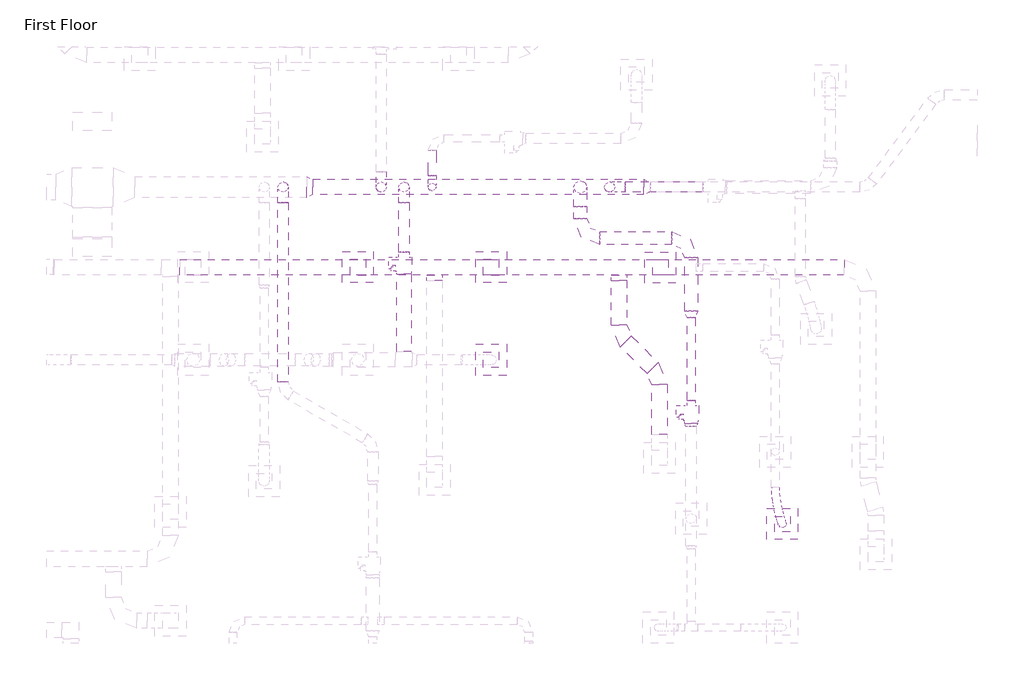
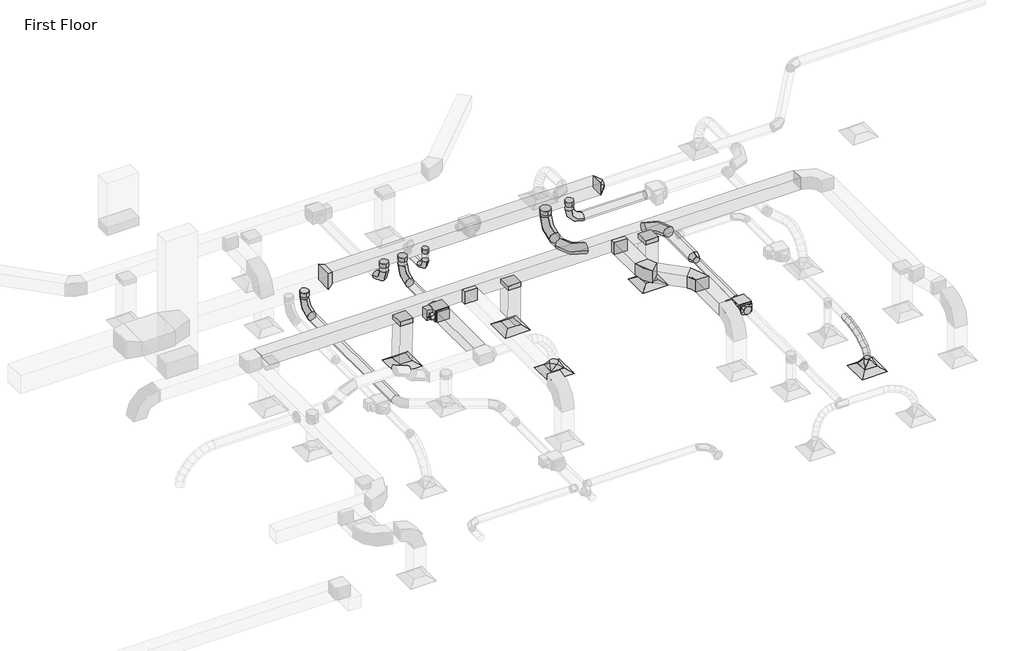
# One storey, part 23 of 61: 27 duct fittings, 24 duct segments, 5 air terminals, 2 proxies.
"""IFC4 building model written with IfcOpenShell, lengths in millimetres."""

from ifc_helpers import new_model, si_unit, point, frame, frame_2d, origin, place, context, project, spatial, polyline, circle_curve, ellipse_curve, trimmed, segment, composite_curve, outline, extrude, transform, mapped, element, save
from ifc_brep_helpers import plane_surface, cylinder_surface, advanced_brep
from components import m_exhaust_grill_er_600_x_600_face_300_x_300_connection_ff221211, m_vav_unit_single_duct_150_mm_ffdab17b, m_vav_unit_single_duct_200_mm_f9143229, m_rectangular_elbow_radius_1_5_w_5bed5c13, m_rectangular_takeoff_standard_c00386d1, m_rectangular_takeoff_standard_e7652614, m_rectangular_takeoff_standard_ef79a8fe, m_rectangular_transition_angle_45_degree_b3f65c7f, m_rectangular_to_round_transition_angle_45_degree_8f201c83, m_rectangular_to_round_transition_angle_45_degree_60daae35, m_rectangular_to_round_transition_angle_45_degree_1b7ae117, m_round_elbow_1_5_d_2e586196, m_round_elbow_1_5_d_4a9a621c, m_round_elbow_1_5_d_b7bc3624, m_round_elbow_1_5_d_9bbe8e48, m_round_elbow_1_5_d_dbf6cddc, m_round_elbow_1_5_d_f82de0da, m_round_takeoff_standard_d02f3bf7, m_round_takeoff_standard_8efdd074, m_round_takeoff_standard_ce92a222, m_round_takeoff_standard_45336e8a, m_round_transition_angle_45_degree_25573e05

model = new_model("IFC4")

# Units and contexts
model_context = context("Model", 3, world=origin())
ifc_project = project(units=[si_unit("LENGTHUNIT", "METRE", prefix="MILLI")], contexts=[model_context])

# Site, building, storey
site = spatial("IfcSite", under=ifc_project)
building = spatial("IfcBuilding", under=site)
storey = spatial("IfcBuildingStorey", under=building, Name="First Floor", Elevation=0.0)

# Air terminals
placement = place(None, origin())
m_exhaust_grill_er_600_x_600_face_300_x_300_connection_shape = m_exhaust_grill_er_600_x_600_face_300_x_300_connection_ff221211(model_context)
element("IfcAirTerminal", 1, ObjectType="M_Return Register : RR-600 x 600 Face 300 x 300 Connection", at=placement, inside=storey, context=model_context, shape_type="MappedRepresentation", body=[
    mapped(m_exhaust_grill_er_600_x_600_face_300_x_300_connection_shape, transform((-30462.8586725, 21539.5631342, 2680.0), x_axis=(1.0, 0.0, 0.0), y_axis=(0.0, 1.0, 0.0), z_axis=(0.0, 0.0, 1.0))),
])
element("IfcAirTerminal", 2, ObjectType="M_Return Register : RR-600 x 600 Face 300 x 300 Connection", at=placement, inside=storey, context=model_context, shape_type="MappedRepresentation", body=[
    mapped(m_exhaust_grill_er_600_x_600_face_300_x_300_connection_shape, transform((-24627.8309689, 21528.2490504, 2680.0), x_axis=(1.0, 0.0, 0.0), y_axis=(0.0, 1.0, 0.0), z_axis=(0.0, 0.0, 1.0))),
])
element("IfcAirTerminal", 3, ObjectType="M_Return Register : RR-600 x 600 Face 300 x 300 Connection", at=placement, inside=storey, context=model_context, shape_type="MappedRepresentation", body=[
    mapped(m_exhaust_grill_er_600_x_600_face_300_x_300_connection_shape, transform((-27891.8705544, 21539.5631342, 2680.0), x_axis=(1.0, 0.0, 0.0), y_axis=(0.0, 1.0, 0.0), z_axis=(0.0, 0.0, 1.0))),
])
element("IfcAirTerminal", 4, ObjectType="M_Supply Diffuser : SD-600 x 600 Face 300 x 300 Connection", at=placement, inside=storey, context=model_context, shape_type="MappedRepresentation", body=[
    mapped(m_exhaust_grill_er_600_x_600_face_300_x_300_connection_shape, transform((-22276.7081761, 16577.4420614, 2680.0), x_axis=(1.0, 0.0, 0.0), y_axis=(0.0, 1.0, 0.0), z_axis=(0.0, 0.0, 1.0))),
])
element("IfcAirTerminal", 5, ObjectType="M_Supply Diffuser : SD-600 x 600 Face 300 x 300 Connection", at=placement, inside=storey, context=model_context, shape_type="MappedRepresentation", body=[
    mapped(m_exhaust_grill_er_600_x_600_face_300_x_300_connection_shape, transform((-27891.8705544, 19747.3013059, 2680.0), x_axis=(1.0, 0.0, 0.0), y_axis=(0.0, 1.0, 0.0), z_axis=(0.0, 0.0, 1.0))),
])

# Proxies
m_vav_unit_single_duct_150_mm_shape = m_vav_unit_single_duct_150_mm_ffdab17b(model_context)
element("IfcBuildingElementProxy", 6, Name="M_VAV Unit - Single Duct : 150 mm", ObjectType="M_VAV Unit - Single Duct : 150 mm", at=placement, inside=storey, context=model_context, shape_type="MappedRepresentation", body=[
    mapped(m_vav_unit_single_duct_150_mm_shape, transform((-24034.890372, 18860.9596581, 3500.0), x_axis=(0.0, -1.0000000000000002, 0.0), y_axis=(1.0000000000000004, 0.0, 0.0), z_axis=(0.0, 0.0, 1.0000000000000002))),
])
m_vav_unit_single_duct_200_mm_shape = m_vav_unit_single_duct_200_mm_f9143229(model_context)
element("IfcBuildingElementProxy", 7, Name="M_VAV Unit - Single Duct : 200 mm", ObjectType="M_VAV Unit - Single Duct : 200 mm", at=placement, inside=storey, context=model_context, shape_type="MappedRepresentation", body=[
    mapped(m_vav_unit_single_duct_200_mm_shape, transform((-29574.4400538, 21727.6725928, 3500.05), x_axis=(0.0, -1.0, 0.0), y_axis=(1.0, 0.0, 0.0), z_axis=(0.0, 0.0, 1.0))),
])

# Duct fittings
m_rectangular_elbow_radius_1_5_w_shape = m_rectangular_elbow_radius_1_5_w_5bed5c13(model_context)
element("IfcDuctFitting", 8, ObjectType="M_Rectangular Elbow - Radius : 1.5 W", at=placement, inside=storey, context=model_context, shape_type="MappedRepresentation", body=[
    mapped(m_rectangular_elbow_radius_1_5_w_shape, transform((-24645.9664299, 19456.3682624, 4000.0), x_axis=(0.0, 1.0, 0.0), y_axis=(-1.0, 0.0, 0.0), z_axis=(0.0, 0.0, 1.0))),
])
element("IfcDuctFitting", 9, ObjectType="M_Rectangular Elbow - Radius : 1.5 W", at=placement, inside=storey, context=model_context, shape_type="MappedRepresentation", body=[
    mapped(m_rectangular_elbow_radius_1_5_w_shape, transform((-25423.7838892, 20234.1857217, 4000.0), x_axis=(0.0, -1.0, 0.0), y_axis=(1.0, 0.0, 0.0), z_axis=(0.0, 0.0, 1.0))),
])
m_rectangular_takeoff_standard_shape = m_rectangular_takeoff_standard_c00386d1(model_context)
element("IfcDuctFitting", 10, ObjectType="M_Rectangular Takeoff : Standard", at=placement, inside=storey, context=model_context, shape_type="MappedRepresentation", body=[
    mapped(m_rectangular_takeoff_standard_shape, transform((-28982.8236084, 21377.5562922, 4000.0), x_axis=(0.0, -1.0, 0.0), y_axis=(-1.0, 0.0, 0.0), z_axis=(0.0, 0.0, -1.0))),
])
element("IfcDuctFitting", 11, ObjectType="M_Rectangular Takeoff : Standard", at=placement, inside=storey, context=model_context, shape_type="MappedRepresentation", body=[
    mapped(m_rectangular_takeoff_standard_shape, transform((-25423.7838892, 21377.5562922, 4000.0), x_axis=(0.0, -1.0, 0.0), y_axis=(-1.0, 0.0, 0.0), z_axis=(0.0, 0.0, -1.0))),
])
m_rectangular_takeoff_standard_2_shape = m_rectangular_takeoff_standard_e7652614(model_context)
element("IfcDuctFitting", 12, ObjectType="M_Rectangular Takeoff : Standard", at=placement, inside=storey, context=model_context, shape_type="MappedRepresentation", body=[
    mapped(m_rectangular_takeoff_standard_2_shape, transform((-24627.8309689, 21527.4847558, 3850.0), x_axis=(0.0, 0.0007153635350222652, -0.9999997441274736), y_axis=(0.0, 0.9999997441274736, 0.0007153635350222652), z_axis=(1.0, 0.0, 0.0))),
])
m_rectangular_takeoff_standard_3_shape = m_rectangular_takeoff_standard_ef79a8fe(model_context)
element("IfcDuctFitting", 13, ObjectType="M_Rectangular Takeoff : Standard", at=placement, inside=storey, context=model_context, shape_type="MappedRepresentation", body=[
    mapped(m_rectangular_takeoff_standard_3_shape, transform((-27891.8705544, 21526.3164283, 3850.0), x_axis=(0.0, 0.012397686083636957, -0.9999231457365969), y_axis=(0.0, 0.9999231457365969, 0.012397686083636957), z_axis=(1.0, 0.0, 0.0))),
])
element("IfcDuctFitting", 14, ObjectType="M_Rectangular Takeoff : Standard", at=placement, inside=storey, context=model_context, shape_type="MappedRepresentation", body=[
    mapped(m_rectangular_takeoff_standard_3_shape, transform((-30462.8586725, 21526.3164283, 3850.0), x_axis=(0.0, 0.01239768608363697, -0.9999231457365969), y_axis=(0.0, 0.9999231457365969, 0.01239768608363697), z_axis=(1.0, 0.0, 0.0))),
])
m_rectangular_transition_angle_45_degree_shape = m_rectangular_transition_angle_45_degree_b3f65c7f(model_context)
element("IfcDuctFitting", 15, ObjectType="M_Rectangular Transition - Angle : 45 Degree", at=placement, inside=storey, context=model_context, shape_type="MappedRepresentation", body=[
    mapped(m_rectangular_transition_angle_45_degree_shape, transform((-31328.0902372, 23080.5096581, 4279.0), x_axis=(-1.0, 0.0, 0.0), y_axis=(0.0, -1.0, 0.0), z_axis=(0.0, 0.0, 1.0))),
])
m_rectangular_to_round_transition_angle_45_degree_shape = m_rectangular_to_round_transition_angle_45_degree_8f201c83(model_context)
element("IfcDuctFitting", 16, ObjectType="M_Rectangular to Round Transition - Angle : 45 Degree", at=placement, inside=storey, context=model_context, shape_type="MappedRepresentation", body=[
    mapped(m_rectangular_to_round_transition_angle_45_degree_shape, transform((-22276.7081761, 16577.4420614, 2781.6), x_axis=(0.0, 0.0, 1.0), y_axis=(1.0, 0.0, 0.0), z_axis=(0.0, 1.0, 0.0))),
])
m_rectangular_to_round_transition_angle_45_degree_2_shape = m_rectangular_to_round_transition_angle_45_degree_60daae35(model_context)
element("IfcDuctFitting", 17, ObjectType="M_Rectangular to Round Transition - Angle : 45 Degree", at=placement, inside=storey, context=model_context, shape_type="MappedRepresentation", body=[
    mapped(m_rectangular_to_round_transition_angle_45_degree_2_shape, transform((-27891.8705544, 19747.3013059, 2781.6), x_axis=(0.0, 0.0, 1.0), y_axis=(1.0, 0.0, 0.0), z_axis=(0.0, 1.0, 0.0))),
])
element("IfcDuctFitting", 18, ObjectType="M_Rectangular to Round Transition - Angle : 45 Degree", at=placement, inside=storey, context=model_context, shape_type="MappedRepresentation", body=[
    mapped(m_rectangular_to_round_transition_angle_45_degree_2_shape, transform((-24948.8009153, 23080.5096581, 4279.0), x_axis=(1.0, 0.0, 0.0), y_axis=(0.0, 1.0, 0.0), z_axis=(0.0, 0.0, 1.0))),
])
m_rectangular_to_round_transition_angle_45_degree_3_shape = m_rectangular_to_round_transition_angle_45_degree_1b7ae117(model_context)
element("IfcDuctFitting", 19, ObjectType="M_Rectangular to Round Transition - Angle : 45 Degree", at=placement, inside=storey, context=model_context, shape_type="MappedRepresentation", body=[
    mapped(m_rectangular_to_round_transition_angle_45_degree_3_shape, transform((-24034.890372, 18518.1596581, 3619.05), x_axis=(0.0, -1.0, 0.0), y_axis=(1.0, 0.0, 0.0), z_axis=(0.0, 0.0, 1.0))),
])
m_round_elbow_1_5_d_shape = m_round_elbow_1_5_d_2e586196(model_context)
element("IfcDuctFitting", 20, ObjectType="M_Round Elbow : 1.5 D", at=placement, inside=storey, context=model_context, shape_type="MappedRepresentation", body=[
    mapped(m_round_elbow_1_5_d_shape, transform((-29028.6643484, 23080.5096581, 3609.5), x_axis=(0.0, 0.0, -1.0), y_axis=(0.0, 1.0, 0.0), z_axis=(1.0, 0.0, 0.0))),
])
m_round_elbow_1_5_d_2_shape = m_round_elbow_1_5_d_4a9a621c(model_context)
element("IfcDuctFitting", 21, ObjectType="M_Round Elbow : 1.5 D", at=placement, inside=storey, context=model_context, shape_type="MappedRepresentation", body=[
    mapped(m_round_elbow_1_5_d_2_shape, transform((-24034.040372, 22094.4455778, 3609.5), x_axis=(0.0, 0.9999999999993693, 1.1231562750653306e-06), y_axis=(-1.0, 0.0, 0.0), z_axis=(0.0, -1.1231562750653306e-06, 0.9999999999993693))),
])
element("IfcDuctFitting", 22, ObjectType="M_Round Elbow : 1.5 D", at=placement, inside=storey, context=model_context, shape_type="MappedRepresentation", body=[
    mapped(m_round_elbow_1_5_d_2_shape, transform((-26174.040372, 23080.5096581, 3609.5), x_axis=(0.0, 0.0, -1.0), y_axis=(0.0, -1.0, 0.0), z_axis=(-1.0, 0.0, 0.0))),
])
element("IfcDuctFitting", 23, ObjectType="M_Round Elbow : 1.5 D", at=placement, inside=storey, context=model_context, shape_type="MappedRepresentation", body=[
    mapped(m_round_elbow_1_5_d_2_shape, transform((-26174.040372, 22094.4455778, 3609.5), x_axis=(0.0, -1.0, 0.0), y_axis=(1.0, 0.0, 0.0), z_axis=(0.0, 0.0, 1.0))),
])
m_round_elbow_1_5_d_3_shape = m_round_elbow_1_5_d_b7bc3624(model_context)
element("IfcDuctFitting", 24, ObjectType="M_Round Elbow : 1.5 D", at=placement, inside=storey, context=model_context, shape_type="MappedRepresentation", body=[
    mapped(m_round_elbow_1_5_d_3_shape, transform((-31904.8110878, 23080.5096581, 3609.5), x_axis=(0.0, 0.0, -1.0), y_axis=(0.0, -1.0, 0.0), z_axis=(-1.0, 0.0, 0.0))),
])
m_round_elbow_1_5_d_4_shape = m_round_elbow_1_5_d_9bbe8e48(model_context)
element("IfcDuctFitting", 25, ObjectType="M_Round Elbow : 1.5 D", at=placement, inside=storey, context=model_context, shape_type="MappedRepresentation", body=[
    mapped(m_round_elbow_1_5_d_4_shape, transform((-25607.0538316, 23080.5096581, 3634.5), x_axis=(-0.9999999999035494, 0.0, -1.3888888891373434e-05), y_axis=(-1.3888888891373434e-05, 0.0, 0.9999999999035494), z_axis=(0.0, 1.0, 0.0))),
])
m_round_elbow_1_5_d_5_shape = m_round_elbow_1_5_d_dbf6cddc(model_context)
element("IfcDuctFitting", 26, ObjectType="M_Round Elbow : 1.5 D", at=placement, inside=storey, context=model_context, shape_type="MappedRepresentation", body=[
    mapped(m_round_elbow_1_5_d_5_shape, transform((-29573.7900538, 23080.5096581, 3634.6045644), x_axis=(0.0, 0.0, -1.0), y_axis=(0.0, -1.0, 0.0), z_axis=(-1.0, 0.0, 0.0))),
])
m_round_elbow_1_5_d_6_shape = m_round_elbow_1_5_d_f82de0da(model_context)
element("IfcDuctFitting", 27, ObjectType="M_Round Elbow : 1.5 D", at=placement, inside=storey, context=model_context, shape_type="MappedRepresentation", body=[
    mapped(m_round_elbow_1_5_d_6_shape, transform((-30011.2191748, 23080.5096581, 3634.6242808), x_axis=(0.0, 0.0, -1.0), y_axis=(0.0, 1.0, 0.0), z_axis=(1.0, 0.0, 0.0))),
])
m_round_takeoff_standard_shape = m_round_takeoff_standard_d02f3bf7(model_context)
element("IfcDuctFitting", 28, ObjectType="M_Round Takeoff : Standard", at=placement, inside=storey, context=model_context, shape_type="MappedRepresentation", body=[
    mapped(m_round_takeoff_standard_shape, transform((-29028.6643484, 23080.5096581, 4129.0), x_axis=(0.0, 0.0, -1.0), y_axis=(-1.0, 0.0, 0.0), z_axis=(0.0, 1.0, 0.0))),
])
m_round_takeoff_standard_2_shape = m_round_takeoff_standard_8efdd074(model_context)
element("IfcDuctFitting", 29, ObjectType="M_Round Takeoff : Standard", at=placement, inside=storey, context=model_context, shape_type="MappedRepresentation", body=[
    mapped(m_round_takeoff_standard_2_shape, transform((-25607.0538316, 23080.5096581, 4129.0), x_axis=(0.0, 0.0, -1.0), y_axis=(0.0, -1.0, 0.0), z_axis=(-1.0, 0.0, 0.0))),
])
element("IfcDuctFitting", 30, ObjectType="M_Round Takeoff : Standard", at=placement, inside=storey, context=model_context, shape_type="MappedRepresentation", body=[
    mapped(m_round_takeoff_standard_2_shape, transform((-30011.2191748, 23080.5096581, 4129.0), x_axis=(0.0, 0.0, -1.0), y_axis=(-1.0, 0.0, 0.0), z_axis=(0.0, 1.0, 0.0))),
])
m_round_takeoff_standard_3_shape = m_round_takeoff_standard_ce92a222(model_context)
element("IfcDuctFitting", 31, ObjectType="M_Round Takeoff : Standard", at=placement, inside=storey, context=model_context, shape_type="MappedRepresentation", body=[
    mapped(m_round_takeoff_standard_3_shape, transform((-26174.040372, 23080.5096581, 4129.0), x_axis=(0.0, 0.0, -1.0), y_axis=(1.0, 0.0, 0.0), z_axis=(0.0, -1.0, 0.0))),
])
m_round_takeoff_standard_4_shape = m_round_takeoff_standard_45336e8a(model_context)
element("IfcDuctFitting", 32, ObjectType="M_Round Takeoff : Standard", at=placement, inside=storey, context=model_context, shape_type="MappedRepresentation", body=[
    mapped(m_round_takeoff_standard_4_shape, transform((-29573.7900538, 23080.5096581, 4129.0), x_axis=(0.0, 0.0, -1.0), y_axis=(1.0, 0.0, 0.0), z_axis=(0.0, -1.0, 0.0))),
])
element("IfcDuctFitting", 33, ObjectType="M_Round Takeoff : Standard", at=placement, inside=storey, context=model_context, shape_type="MappedRepresentation", body=[
    mapped(m_round_takeoff_standard_4_shape, transform((-31904.8110878, 23080.5096581, 4059.5), x_axis=(0.0, 0.0, -1.0), y_axis=(1.0, 0.0, 0.0), z_axis=(0.0, -1.0, 0.0))),
])
m_round_transition_angle_45_degree_shape = m_round_transition_angle_45_degree_25573e05(model_context)
element("IfcDuctFitting", 34, ObjectType="M_Round Transition - Angle : 45 Degree", at=placement, inside=storey, context=model_context, shape_type="MappedRepresentation", body=[
    mapped(m_round_transition_angle_45_degree_shape, transform((-24034.040372, 20562.5596581, 3609.5), x_axis=(0.0, 0.9999999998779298, -1.562500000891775e-05), y_axis=(-1.0000000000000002, 0.0, 0.0), z_axis=(0.0, 1.562500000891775e-05, 0.9999999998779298))),
])

# Duct segments
element("IfcDuctSegment", 35, ObjectType="Flex - Round", at=placement, inside=storey, context=model_context, shape_type="AdvancedBrep", body=[
    advanced_brep(
    [(-22337.5322049, 17286.8110835, 3619.1), (-22412.8720401, 17292.2357993, 3544.6387235), (-22487.3651664, 17279.734102, 3619.1), (-22412.0253312, 17274.3093863, 3693.5612765), (-22331.8283221, 17166.0491953, 3604.5309709), (-22407.4025928, 17176.4373507, 3530.6684967), (-22481.4038492, 17153.5218453, 3603.8734242), (-22405.8295785, 17143.13369, 3677.7358984), (-22202.9970285, 16591.1920171, 2964.2801549), (-22263.330789, 16504.4510511, 2973.5452603), (-22350.4193237, 16563.6921057, 2961.0518794), (-22290.0855633, 16650.4330717, 2951.7867741), (-22316.9829183, 17046.6391712, 3563.9425994), (-22393.6850121, 17066.0990489, 3493.1636723), (-22465.4955438, 17025.5622994, 3560.3790055), (-22388.79345, 17006.1024217, 3631.1579326), (-22295.7029159, 16930.4033389, 3500.1144399), (-22373.8850698, 16957.9476155, 3433.7748693), (-22443.2961642, 16904.3046366, 3493.7932265), (-22365.1140103, 16876.76036, 3560.1327971), (-22271.0773816, 16823.0192861, 3416.7208696), (-22351.0268293, 16858.2701635, 3356.3661817), (-22418.0794801, 16794.342769, 3408.3977465), (-22338.1300325, 16759.0918916, 3468.7524344), (-22246.2657647, 16729.9665001, 3317.554423), (-22328.2816146, 16772.9671538, 3265.4586794), (-22393.0488787, 16700.4687096, 3308.356068), (-22311.0330288, 16657.468056, 3360.4518117), (-22224.455965, 16656.6125646, 3206.3614053), (-22308.7943061, 16707.4245637, 3166.1064316), (-22371.3792965, 16627.5863746, 3197.8779225), (-22287.0409553, 16576.7743755, 3238.1328962), (-22208.8838372, 16608.3705154, 3086.7726905), (-22295.4665161, 16666.1354149, 3063.7534775), (-22356.1977151, 16580.5542281, 3081.2884729), (-22269.6150362, 16522.7893287, 3104.3076859)],
    [
        (0, 1, circle_curve(frame((-22412.4486857, 17283.2725928, 3619.1), z_axis=(-0.04684098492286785, 0.9917114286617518, 0.11964265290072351), x_axis=(0.9988864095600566, 0.04717987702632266, 0.0)), 75.0)),
        (1, 2, circle_curve(frame((-22412.4486857, 17283.2725928, 3619.1), z_axis=(-0.04684098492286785, 0.9917114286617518, 0.11964265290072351), x_axis=(0.9988864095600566, 0.04717987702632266, 0.0)), 75.0)),
        (2, 3, circle_curve(frame((-22412.4486857, 17283.2725928, 3619.1), z_axis=(-0.04684098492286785, 0.9917114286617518, 0.11964265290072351), x_axis=(0.9988864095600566, 0.04717987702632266, 0.0)), 75.0)),
        (3, 0, circle_curve(frame((-22412.4486857, 17283.2725928, 3619.1), z_axis=(-0.04684098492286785, 0.9917114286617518, 0.11964265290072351), x_axis=(0.9988864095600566, 0.04717987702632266, 0.0)), 75.0)),
        (0, 4),
        (4, 5, ellipse_curve(frame((-22406.6160856, 17159.7855203, 3604.2021976), z_axis=(-0.08236230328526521, 0.9718018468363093, 0.22094710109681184), x_axis=(0.32132282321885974, 0.23575522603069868, -0.9171538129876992)), 75.4497084, 75.0)),
        (5, 1),
        (5, 6, ellipse_curve(frame((-22406.6160856, 17159.7855203, 3604.2021976), z_axis=(-0.08236230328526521, 0.9718018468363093, 0.22094710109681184), x_axis=(0.32132282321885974, 0.23575522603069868, -0.9171538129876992)), 75.4497084, 75.0)),
        (6, 2),
        (6, 7, ellipse_curve(frame((-22406.6160856, 17159.7855203, 3604.2021976), z_axis=(-0.08236230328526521, 0.9718018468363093, 0.22094710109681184), x_axis=(0.32132282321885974, 0.23575522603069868, -0.9171538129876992)), 75.4497084, 75.0)),
        (7, 3),
        (7, 4, ellipse_curve(frame((-22406.6160856, 17159.7855203, 3604.2021976), z_axis=(-0.08236230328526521, 0.9718018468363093, 0.22094710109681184), x_axis=(0.32132282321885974, 0.23575522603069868, -0.9171538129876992)), 75.4497084, 75.0)),
        (8, 9, circle_curve(frame((-22276.7081761, 16577.4420614, 2962.6660172), z_axis=(0.04753896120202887, -0.13872507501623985, -0.9891892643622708), x_axis=(0.9828153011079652, 0.18333274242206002, 0.0215218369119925)), 75.0)),
        (9, 10, circle_curve(frame((-22276.7081761, 16577.4420614, 2962.6660172), z_axis=(0.04753896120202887, -0.13872507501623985, -0.9891892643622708), x_axis=(0.9828153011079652, 0.18333274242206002, 0.0215218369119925)), 75.0)),
        (10, 11, circle_curve(frame((-22276.7081761, 16577.4420614, 2962.6660172), z_axis=(0.04753896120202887, -0.13872507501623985, -0.9891892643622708), x_axis=(0.9828153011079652, 0.18333274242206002, 0.0215218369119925)), 75.0)),
        (11, 8, circle_curve(frame((-22276.7081761, 16577.4420614, 2962.6660172), z_axis=(0.04753896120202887, -0.13872507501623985, -0.9891892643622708), x_axis=(0.9828153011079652, 0.18333274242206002, 0.0215218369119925)), 75.0)),
        (4, 12),
        (12, 13, ellipse_curve(frame((-22391.239231, 17036.1007353, 3562.1608025), z_axis=(-0.13822015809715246, 0.9064687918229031, 0.39901067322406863), x_axis=(0.23389540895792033, 0.4213578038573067, -0.8762137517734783)), 75.2975301, 75.0)),
        (13, 5),
        (13, 14, ellipse_curve(frame((-22391.239231, 17036.1007353, 3562.1608025), z_axis=(-0.13822015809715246, 0.9064687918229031, 0.39901067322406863), x_axis=(0.23389540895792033, 0.4213578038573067, -0.8762137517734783)), 75.2975301, 75.0)),
        (14, 6),
        (14, 15, ellipse_curve(frame((-22391.239231, 17036.1007353, 3562.1608025), z_axis=(-0.13822015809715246, 0.9064687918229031, 0.39901067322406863), x_axis=(0.23389540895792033, 0.4213578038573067, -0.8762137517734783)), 75.2975301, 75.0)),
        (15, 7),
        (15, 12, ellipse_curve(frame((-22391.239231, 17036.1007353, 3562.1608025), z_axis=(-0.13822015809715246, 0.9064687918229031, 0.39901067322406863), x_axis=(0.23389540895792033, 0.4213578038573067, -0.8762137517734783)), 75.2975301, 75.0)),
        (12, 16),
        (16, 17, ellipse_curve(frame((-22369.4995401, 16917.3539877, 3496.9538332), z_axis=(-0.1688542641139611, 0.8238560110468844, 0.5410633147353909), x_axis=(0.12595685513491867, 0.5624811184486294, -0.817159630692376)), 75.2321321, 75.0)),
        (17, 13),
        (17, 18, ellipse_curve(frame((-22369.4995401, 16917.3539877, 3496.9538332), z_axis=(-0.1688542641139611, 0.8238560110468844, 0.5410633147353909), x_axis=(0.12595685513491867, 0.5624811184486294, -0.817159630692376)), 75.2321321, 75.0)),
        (18, 14),
        (18, 19, ellipse_curve(frame((-22369.4995401, 16917.3539877, 3496.9538332), z_axis=(-0.1688542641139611, 0.8238560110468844, 0.5410633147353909), x_axis=(0.12595685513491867, 0.5624811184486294, -0.817159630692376)), 75.2321321, 75.0)),
        (19, 15),
        (19, 16, ellipse_curve(frame((-22369.4995401, 16917.3539877, 3496.9538332), z_axis=(-0.1688542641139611, 0.8238560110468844, 0.5410633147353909), x_axis=(0.12595685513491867, 0.5624811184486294, -0.817159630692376)), 75.2321321, 75.0)),
        (16, 20),
        (20, 21, ellipse_curve(frame((-22344.5784309, 16808.6810276, 3412.5593081), z_axis=(-0.1793896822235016, 0.7273249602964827, 0.6624331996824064), x_axis=(0.008240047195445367, 0.6744435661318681, -0.7382804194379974)), 75.2239336, 75.0)),
        (21, 17),
        (21, 22, ellipse_curve(frame((-22344.5784309, 16808.6810276, 3412.5593081), z_axis=(-0.1793896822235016, 0.7273249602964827, 0.6624331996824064), x_axis=(0.008240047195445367, 0.6744435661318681, -0.7382804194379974)), 75.2239336, 75.0)),
        (22, 18),
        (22, 23, ellipse_curve(frame((-22344.5784309, 16808.6810276, 3412.5593081), z_axis=(-0.1793896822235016, 0.7273249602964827, 0.6624331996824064), x_axis=(0.008240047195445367, 0.6744435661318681, -0.7382804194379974)), 75.2239336, 75.0)),
        (23, 19),
        (23, 20, ellipse_curve(frame((-22344.5784309, 16808.6810276, 3412.5593081), z_axis=(-0.1793896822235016, 0.7273249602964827, 0.6624331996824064), x_axis=(0.008240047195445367, 0.6744435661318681, -0.7382804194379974)), 75.2239336, 75.0)),
        (20, 24),
        (24, 25, ellipse_curve(frame((-22319.6573217, 16715.2176049, 3312.9552455), z_axis=(-0.17114286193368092, 0.6104708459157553, 0.773327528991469), x_axis=(-0.10619265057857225, 0.7689058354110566, -0.6304815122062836)), 75.2682908, 75.0)),
        (25, 21),
        (25, 26, ellipse_curve(frame((-22319.6573217, 16715.2176049, 3312.9552455), z_axis=(-0.17114286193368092, 0.6104708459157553, 0.773327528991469), x_axis=(-0.10619265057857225, 0.7689058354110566, -0.6304815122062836)), 75.2682908, 75.0)),
        (26, 22),
        (26, 27, ellipse_curve(frame((-22319.6573217, 16715.2176049, 3312.9552455), z_axis=(-0.17114286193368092, 0.6104708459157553, 0.773327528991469), x_axis=(-0.10619265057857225, 0.7689058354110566, -0.6304815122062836)), 75.2682908, 75.0)),
        (27, 23),
        (27, 24, ellipse_curve(frame((-22319.6573217, 16715.2176049, 3312.9552455), z_axis=(-0.17114286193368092, 0.6104708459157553, 0.773327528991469), x_axis=(-0.10619265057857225, 0.7689058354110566, -0.6304815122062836)), 75.2682908, 75.0)),
        (24, 28),
        (28, 29, ellipse_curve(frame((-22297.9176307, 16642.0994696, 3202.1196639), z_axis=(-0.14145311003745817, 0.4597668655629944, 0.876701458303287), x_axis=(-0.20656639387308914, 0.8524032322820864, -0.4803530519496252)), 75.3847566, 75.0)),
        (29, 25),
        (29, 30, ellipse_curve(frame((-22297.9176307, 16642.0994696, 3202.1196639), z_axis=(-0.14145311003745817, 0.4597668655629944, 0.876701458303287), x_axis=(-0.20656639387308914, 0.8524032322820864, -0.4803530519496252)), 75.3847566, 75.0)),
        (30, 26),
        (30, 31, ellipse_curve(frame((-22297.9176307, 16642.0994696, 3202.1196639), z_axis=(-0.14145311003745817, 0.4597668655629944, 0.876701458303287), x_axis=(-0.20656639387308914, 0.8524032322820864, -0.4803530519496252)), 75.3847566, 75.0)),
        (31, 27),
        (31, 28, ellipse_curve(frame((-22297.9176307, 16642.0994696, 3202.1196639), z_axis=(-0.14145311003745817, 0.4597668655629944, 0.876701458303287), x_axis=(-0.20656639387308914, 0.8524032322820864, -0.4803530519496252)), 75.3847566, 75.0)),
        (28, 32),
        (32, 33, ellipse_curve(frame((-22282.5407761, 16594.4623718, 3084.0305817), z_axis=(-0.08439186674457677, 0.2571344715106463, 0.9626836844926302), x_axis=(-0.2858330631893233, 0.9192801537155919, -0.2705983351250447)), 75.6079433, 75.0)),
        (33, 29),
        (33, 34, ellipse_curve(frame((-22282.5407761, 16594.4623718, 3084.0305817), z_axis=(-0.08439186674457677, 0.2571344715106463, 0.9626836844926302), x_axis=(-0.2858330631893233, 0.9192801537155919, -0.2705983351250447)), 75.6079433, 75.0)),
        (34, 30),
        (34, 35, ellipse_curve(frame((-22282.5407761, 16594.4623718, 3084.0305817), z_axis=(-0.08439186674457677, 0.2571344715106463, 0.9626836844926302), x_axis=(-0.2858330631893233, 0.9192801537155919, -0.2705983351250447)), 75.6079433, 75.0)),
        (35, 31),
        (35, 32, ellipse_curve(frame((-22282.5407761, 16594.4623718, 3084.0305817), z_axis=(-0.08439186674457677, 0.2571344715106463, 0.9626836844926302), x_axis=(-0.2858330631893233, 0.9192801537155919, -0.2705983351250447)), 75.6079433, 75.0)),
        (32, 8),
        (11, 33),
        (10, 34),
        (9, 35),
    ],
    [
        plane_surface(frame((-22412.4486857, 17292.2556519, 3544.6399124), z_axis=(-0.04684098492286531, 0.9917114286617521, 0.11964265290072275), x_axis=(0.9989023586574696, 0.04650378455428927, 0.0056103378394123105))),
        cylinder_surface(frame((-22412.4486857, 17283.2725928, 3619.1), z_axis=(-0.04684098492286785, 0.9917114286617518, 0.11964265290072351), x_axis=(0.9988864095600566, 0.04717987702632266, 0.0)), 75.0),
        plane_surface(frame((-22276.7081761, 16651.7152306, 2952.2498599), z_axis=(0.04753896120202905, -0.1387250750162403, -0.989189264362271), x_axis=(0.9988693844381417, 0.006602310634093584, 0.04707825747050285))),
        cylinder_surface(frame((-22406.6160856, 17159.7855203, 3604.2021976), z_axis=(-0.11690180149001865, 0.9403076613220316, 0.3196176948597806), x_axis=(0.9928869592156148, 0.11796804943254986, 0.016094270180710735)), 75.0),
        cylinder_surface(frame((-22391.239231, 17036.1007353, 3562.1608025), z_axis=(-0.15844619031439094, 0.8654662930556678, 0.47525035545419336), x_axis=(0.9862853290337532, 0.16126254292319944, 0.0351516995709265)), 75.0),
        cylinder_surface(frame((-22369.4995401, 16917.3539877, 3496.9538332), z_axis=(-0.1782203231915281, 0.7771616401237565, 0.6035373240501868), x_axis=(0.9813338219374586, 0.18542141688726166, 0.05101791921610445)), 75.0),
        cylinder_surface(frame((-22344.5784309, 16808.6810276, 3412.5593081), z_axis=(-0.17949099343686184, 0.6731579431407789, 0.7173850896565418), x_axis=(0.9786847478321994, 0.1961619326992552, 0.060800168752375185)), 75.0),
        cylinder_surface(frame((-22319.6573217, 16715.2176049, 3312.9552455), z_axis=(-0.16157466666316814, 0.5434317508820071, 0.8237569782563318), x_axis=(0.9784364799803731, 0.19704751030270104, 0.061921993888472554)), 75.0),
        cylinder_surface(frame((-22297.9176307, 16642.0994696, 3202.1196639), z_axis=(-0.11988762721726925, 0.37140876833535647, 0.9206967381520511), x_axis=(0.9802697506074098, 0.19108880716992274, 0.05055970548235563)), 75.0),
        cylinder_surface(frame((-22282.5407761, 16594.4623718, 3084.0305817), z_axis=(-0.047538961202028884, 0.13872507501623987, 0.9891892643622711), x_axis=(0.9828153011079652, 0.18333274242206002, 0.0215218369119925)), 75.0),
    ],
    [
        (0, [[1, 2, 3, 4]]),
        (1, [[-1, 5, 6, 7]]),
        (1, [[-2, -7, 8, 9]]),
        (1, [[-3, -9, 10, 11]]),
        (1, [[-4, -11, 12, -5]]),
        (2, [[13, 14, 15, 16]]),
        (3, [[-6, 17, 18, 19]]),
        (3, [[-8, -19, 20, 21]]),
        (3, [[-10, -21, 22, 23]]),
        (3, [[-12, -23, 24, -17]]),
        (4, [[-18, 25, 26, 27]]),
        (4, [[-20, -27, 28, 29]]),
        (4, [[-22, -29, 30, 31]]),
        (4, [[-24, -31, 32, -25]]),
        (5, [[-26, 33, 34, 35]]),
        (5, [[-28, -35, 36, 37]]),
        (5, [[-30, -37, 38, 39]]),
        (5, [[-32, -39, 40, -33]]),
        (6, [[-34, 41, 42, 43]]),
        (6, [[-36, -43, 44, 45]]),
        (6, [[-38, -45, 46, 47]]),
        (6, [[-40, -47, 48, -41]]),
        (7, [[-42, 49, 50, 51]]),
        (7, [[-44, -51, 52, 53]]),
        (7, [[-46, -53, 54, 55]]),
        (7, [[-48, -55, 56, -49]]),
        (8, [[-50, 57, 58, 59]]),
        (8, [[-52, -59, 60, 61]]),
        (8, [[-54, -61, 62, 63]]),
        (8, [[-56, -63, 64, -57]]),
        (9, [[-58, 65, -16, 66]]),
        (9, [[-60, -66, -15, 67]]),
        (9, [[-62, -67, -14, 68]]),
        (9, [[-64, -68, -13, -65]]),
    ],
),
])
element("IfcDuctSegment", 36, ObjectType="Mitered Elbows / Taps", at=placement, inside=storey, context=model_context, shape_type="SweptSolid", body=[
    extrude(outline(polyline([(-29711.9400538, 21397.8725928), (-29436.9400538, 21397.8725928), (-29436.9400538, 19909.8013059), (-29711.9400538, 19909.8013059), (-29711.9400538, 21397.8725928)])), frame((0.0, 0.0, 3519.1), z_axis=(0.0, 0.0, 1.0), x_axis=(1.0, 0.0, 0.0)), (0.0, 0.0, 1.0), 250.0),
])
element("IfcDuctSegment", 37, ObjectType="Radius Elbows / Taps", at=placement, inside=storey, context=model_context, shape_type="SweptSolid", body=[
    extrude(outline(polyline([(-24948.8009153, 23230.5096581), (-24948.8009153, 22930.5096581), (-31328.0902372, 22930.5096581), (-31328.0902372, 23230.5096581), (-24948.8009153, 23230.5096581)])), frame((0.0, 0.0, 4129.0), z_axis=(0.0, 0.0, 1.0), x_axis=(1.0, 0.0, 0.0)), (0.0, 0.0, 1.0), 300.0),
])
element("IfcDuctSegment", 38, ObjectType="Radius Elbows / Taps", at=placement, inside=storey, context=model_context, shape_type="SweptSolid", body=[
    extrude(outline(polyline([(-150.0, 62.1320343), (-150.0, 362.1320343), (150.0, 362.1320343), (150.0, 62.1320343), (-150.0, 62.1320343)])), frame((-24627.8309689, 21316.1170704, 2781.4482485), z_axis=(0.0, -0.0007153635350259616, 0.9999997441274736), x_axis=(1.0, 0.0, 0.0)), (0.0, 0.0, 1.0), 968.2929688),
])
element("IfcDuctSegment", 39, ObjectType="Radius Elbows / Taps", at=placement, inside=storey, context=model_context, shape_type="SweptSolid", body=[
    extrude(outline(polyline([(-150.0, 62.1320343), (-150.0, 362.1320343), (150.0, 362.1320343), (150.0, 62.1320343), (-150.0, 62.1320343)])), frame((-27891.8705544, 21327.4474031, 2778.9700536), z_axis=(0.0, -0.012397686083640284, 0.9999231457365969), x_axis=(1.0, 0.0, 0.0)), (0.0, 0.0, 1.0), 966.6223216),
])
element("IfcDuctSegment", 40, ObjectType="Radius Elbows / Taps", at=placement, inside=storey, context=model_context, shape_type="SweptSolid", body=[
    extrude(outline(polyline([(-150.0, 62.1320343), (-150.0, 362.1320343), (150.0, 362.1320343), (150.0, 62.1320343), (-150.0, 62.1320343)])), frame((-30462.8586725, 21327.4474031, 2778.9700536), z_axis=(0.0, -0.012397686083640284, 0.9999231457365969), x_axis=(1.0, 0.0, 0.0)), (0.0, 0.0, 1.0), 966.6223216),
])
element("IfcDuctSegment", 41, ObjectType="Radius Elbows / Taps", at=placement, inside=storey, context=model_context, shape_type="SweptSolid", body=[
    extrude(outline(polyline([(-24495.9664299, 18306.3682624), (-24795.9664299, 18306.3682624), (-24795.9664299, 19269.9721594), (-24495.9664299, 19269.9721594), (-24495.9664299, 18306.3682624)])), frame((0.0, 0.0, 3850.0), z_axis=(0.0, 0.0, 1.0), x_axis=(1.0, 0.0, 0.0)), (0.0, 0.0, 1.0), 300.0),
])
element("IfcDuctSegment", 42, ObjectType="Radius Elbows / Taps", at=placement, inside=storey, context=model_context, shape_type="SweptSolid", body=[
    extrude(outline(polyline([(-24671.7023612, 19694.2362281), (-24883.8343956, 19482.1041937), (-25398.0479579, 19996.3177561), (-25185.9159236, 20208.4497904), (-24671.7023612, 19694.2362281)])), frame((0.0, 0.0, 3850.0), z_axis=(0.0, 0.0, 1.0), x_axis=(1.0, 0.0, 0.0)), (0.0, 0.0, 1.0), 300.0),
])
element("IfcDuctSegment", 43, ObjectType="Radius Elbows / Taps", at=placement, inside=storey, context=model_context, shape_type="SweptSolid", body=[
    extrude(outline(polyline([(-25573.7838892, 21277.5562922), (-25273.7838892, 21277.5562922), (-25273.7838892, 20420.5818248), (-25573.7838892, 20420.5818248), (-25573.7838892, 21277.5562922)])), frame((0.0, 0.0, 3850.0), z_axis=(0.0, 0.0, 1.0), x_axis=(1.0, 0.0, 0.0)), (0.0, 0.0, 1.0), 300.0),
])
element("IfcDuctSegment", 44, ObjectType="Radius Elbows / Tees", at=placement, inside=storey, context=model_context, shape_type="SweptSolid", body=[
    extrude(outline(polyline([(-33900.733002, 21377.5562922), (-33900.733002, 21677.5562922), (-21078.0902372, 21677.5562922), (-21078.0902372, 21377.5562922), (-33900.733002, 21377.5562922)])), frame((0.0, 0.0, 3850.0), z_axis=(0.0, 0.0, 1.0), x_axis=(1.0, 0.0, 0.0)), (0.0, 0.0, 1.0), 300.0),
])
element("IfcDuctSegment", 45, ObjectType="Taps", at=placement, inside=storey, context=model_context, shape_type="SweptSolid", body=[
    extrude(outline(composite_curve([segment(trimmed(circle_curve(frame_2d((0.0, -75.0)), 75.0), [point((0.0, -150.0))], [point((-75.0, -75.0))], False, "CARTESIAN"), True, "CONTINUOUS"), segment(trimmed(circle_curve(frame_2d((0.0, -75.0)), 75.0), [point((-75.0, -75.0))], [point((0.0, 0.0))], False, "CARTESIAN"), True, "CONTINUOUS"), segment(trimmed(circle_curve(frame_2d((0.0, -75.0)), 75.0), [point((0.0, 0.0))], [point((75.0, -75.0))], False, "CARTESIAN"), True, "CONTINUOUS"), segment(trimmed(circle_curve(frame_2d((0.0, -75.0)), 75.0), [point((75.0, -75.0))], [point((0.0, -150.0))], False, "CARTESIAN"), True, "CONTINUOUS")], self_intersect=False)), frame((-24109.040372, 20562.5596581, 3609.5), z_axis=(0.0, -0.9999999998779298, 1.562500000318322e-05), x_axis=(0.0, 1.562500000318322e-05, 0.9999999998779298)), (0.0, 0.0, 1.0), 1600.0000002),
])
element("IfcDuctSegment", 46, ObjectType="Taps", at=placement, inside=storey, context=model_context, shape_type="SweptSolid", body=[
    extrude(outline(composite_curve([segment(trimmed(circle_curve(frame_2d((3609.4981139, -24034.040372)), 125.0), [point((3609.4981139, -23909.040372))], [point((3734.4981139, -24034.040372))], False, "CARTESIAN"), True, "CONTINUOUS"), segment(trimmed(circle_curve(frame_2d((3609.4981139, -24034.040372)), 125.0), [point((3734.4981139, -24034.040372))], [point((3609.4981139, -24159.040372))], False, "CARTESIAN"), True, "CONTINUOUS"), segment(trimmed(circle_curve(frame_2d((3609.4981139, -24034.040372)), 125.0), [point((3609.4981139, -24159.040372))], [point((3484.4981139, -24034.040372))], False, "CARTESIAN"), True, "CONTINUOUS"), segment(trimmed(circle_curve(frame_2d((3609.4981139, -24034.040372)), 125.0), [point((3484.4981139, -24034.040372))], [point((3609.4981139, -23909.040372))], False, "CARTESIAN"), True, "CONTINUOUS")], self_intersect=False)), frame((0.0, 20683.2703362, 0.0), z_axis=(0.0, 1.0, 0.0), x_axis=(0.0, 0.0, 1.0)), (0.0, 0.0, 1.0), 1036.1752416),
])
element("IfcDuctSegment", 47, ObjectType="Taps", at=placement, inside=storey, context=model_context, shape_type="SweptSolid", body=[
    extrude(outline(composite_curve([segment(trimmed(circle_curve(frame_2d((22094.4455778, 3609.5)), 125.0), [point((22219.4455778, 3609.5))], [point((22094.4455778, 3484.5))], False, "CARTESIAN"), True, "CONTINUOUS"), segment(trimmed(circle_curve(frame_2d((22094.4455778, 3609.5)), 125.0), [point((22094.4455778, 3484.5))], [point((21969.4455778, 3609.5))], False, "CARTESIAN"), True, "CONTINUOUS"), segment(trimmed(circle_curve(frame_2d((22094.4455778, 3609.5)), 125.0), [point((21969.4455778, 3609.5))], [point((22094.4455778, 3734.5))], False, "CARTESIAN"), True, "CONTINUOUS"), segment(trimmed(circle_curve(frame_2d((22094.4455778, 3609.5)), 125.0), [point((22094.4455778, 3734.5))], [point((22219.4455778, 3609.5))], False, "CARTESIAN"), True, "CONTINUOUS")], self_intersect=False)), frame((-25799.040372, 0.0, 0.0), z_axis=(1.0, 0.0, 0.0), x_axis=(0.0, 1.0, 0.0)), (0.0, 0.0, 1.0), 1390.0),
])
element("IfcDuctSegment", 48, ObjectType="Taps", at=placement, inside=storey, context=model_context, shape_type="SweptSolid", body=[
    extrude(outline(composite_curve([segment(trimmed(circle_curve(frame_2d((0.0, 100.0)), 100.0), [point((0.0, 200.0))], [point((100.0, 100.0))], False, "CARTESIAN"), True, "CONTINUOUS"), segment(trimmed(circle_curve(frame_2d((0.0, 100.0)), 100.0), [point((100.0, 100.0))], [point((0.0, 0.0))], False, "CARTESIAN"), True, "CONTINUOUS"), segment(trimmed(circle_curve(frame_2d((0.0, 100.0)), 100.0), [point((0.0, 0.0))], [point((-100.0, 100.0))], False, "CARTESIAN"), True, "CONTINUOUS"), segment(trimmed(circle_curve(frame_2d((0.0, 100.0)), 100.0), [point((-100.0, 100.0))], [point((0.0, 200.0))], False, "CARTESIAN"), True, "CONTINUOUS")], self_intersect=False)), frame((-29673.7900538, 21829.2725928, 3634.575), z_axis=(0.0, 0.9999999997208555, 2.3628141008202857e-05), x_axis=(0.0, -2.3628141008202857e-05, 0.9999999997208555)), (0.0, 0.0, 1.0), 951.2441541),
])
element("IfcDuctSegment", 49, ObjectType="Taps", at=placement, inside=storey, context=model_context, shape_type="SweptSolid", body=[
    extrude(outline(composite_curve([segment(trimmed(circle_curve(frame_2d((3609.5, -31904.8110878)), 100.0), [point((3609.5, -31804.8110878))], [point((3709.5, -31904.8110878))], False, "CARTESIAN"), True, "CONTINUOUS"), segment(trimmed(circle_curve(frame_2d((3609.5, -31904.8110878)), 100.0), [point((3709.5, -31904.8110878))], [point((3609.5, -32004.8110878))], False, "CARTESIAN"), True, "CONTINUOUS"), segment(trimmed(circle_curve(frame_2d((3609.5, -31904.8110878)), 100.0), [point((3609.5, -32004.8110878))], [point((3509.5, -31904.8110878))], False, "CARTESIAN"), True, "CONTINUOUS"), segment(trimmed(circle_curve(frame_2d((3609.5, -31904.8110878)), 100.0), [point((3509.5, -31904.8110878))], [point((3609.5, -31804.8110878))], False, "CARTESIAN"), True, "CONTINUOUS")], self_intersect=False)), frame((0.0, 19317.9096117, 0.0), z_axis=(0.0, 1.0, 0.0), x_axis=(0.0, 0.0, 1.0)), (0.0, 0.0, 1.0), 3462.6000464),
])
element("IfcDuctSegment", 50, ObjectType="Taps", at=placement, inside=storey, context=model_context, shape_type="SweptSolid", body=[
    extrude(outline(composite_curve([segment(trimmed(circle_curve(frame_2d((0.0, -100.0)), 100.0), [point((-100.0, -100.0))], [point((0.0, 0.0))], False, "CARTESIAN"), True, "CONTINUOUS"), segment(trimmed(circle_curve(frame_2d((0.0, -100.0)), 100.0), [point((0.0, 0.0))], [point((100.0, -100.0))], False, "CARTESIAN"), True, "CONTINUOUS"), segment(trimmed(circle_curve(frame_2d((0.0, -100.0)), 100.0), [point((100.0, -100.0))], [point((0.0, -200.0))], False, "CARTESIAN"), True, "CONTINUOUS"), segment(trimmed(circle_curve(frame_2d((0.0, -100.0)), 100.0), [point((0.0, -200.0))], [point((-100.0, -100.0))], False, "CARTESIAN"), True, "CONTINUOUS")], self_intersect=False)), frame((-25307.048276, 23080.5096581, 3534.5041667), z_axis=(0.9999999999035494, 0.0, 1.388888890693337e-05), x_axis=(0.0, -1.0, 0.0)), (0.0, 0.0, 1.0), 1499.9958335),
])
element("IfcDuctSegment", 51, ObjectType="Taps", at=placement, inside=storey, context=model_context, shape_type="SweptSolid", body=[
    extrude(outline(composite_curve([segment(trimmed(circle_curve(frame_2d((-25607.0538316, 23080.5096581)), 100.0), [point((-25607.0538316, 23180.5096581))], [point((-25507.0538316, 23080.5096581))], False, "CARTESIAN"), True, "CONTINUOUS"), segment(trimmed(circle_curve(frame_2d((-25607.0538316, 23080.5096581)), 100.0), [point((-25507.0538316, 23080.5096581))], [point((-25607.0538316, 22980.5096581))], False, "CARTESIAN"), True, "CONTINUOUS"), segment(trimmed(circle_curve(frame_2d((-25607.0538316, 23080.5096581)), 100.0), [point((-25607.0538316, 22980.5096581))], [point((-25707.0538316, 23080.5096581))], False, "CARTESIAN"), True, "CONTINUOUS"), segment(trimmed(circle_curve(frame_2d((-25607.0538316, 23080.5096581)), 100.0), [point((-25707.0538316, 23080.5096581))], [point((-25607.0538316, 23180.5096581))], False, "CARTESIAN"), True, "CONTINUOUS")], self_intersect=False)), frame((0.0, 0.0, 3934.5041667), z_axis=(0.0, 0.0, 1.0), x_axis=(1.0, 0.0, 0.0)), (0.0, 0.0, 1.0), 94.4958333),
])
element("IfcDuctSegment", 52, ObjectType="Taps", at=placement, inside=storey, context=model_context, shape_type="SweptSolid", body=[
    extrude(outline(composite_curve([segment(trimmed(circle_curve(frame_2d((3609.5, -29028.6643484)), 75.0), [point((3609.5, -28953.6643484))], [point((3684.5, -29028.6643484))], False, "CARTESIAN"), True, "CONTINUOUS"), segment(trimmed(circle_curve(frame_2d((3609.5, -29028.6643484)), 75.0), [point((3684.5, -29028.6643484))], [point((3609.5, -29103.6643484))], False, "CARTESIAN"), True, "CONTINUOUS"), segment(trimmed(circle_curve(frame_2d((3609.5, -29028.6643484)), 75.0), [point((3609.5, -29103.6643484))], [point((3534.5, -29028.6643484))], False, "CARTESIAN"), True, "CONTINUOUS"), segment(trimmed(circle_curve(frame_2d((3609.5, -29028.6643484)), 75.0), [point((3534.5, -29028.6643484))], [point((3609.5, -28953.6643484))], False, "CARTESIAN"), True, "CONTINUOUS")], self_intersect=False)), frame((0.0, 23305.5096581, 0.0), z_axis=(0.0, 1.0, 0.0), x_axis=(0.0, 0.0, 1.0)), (0.0, 0.0, 1.0), 486.7321538),
])
element("IfcDuctSegment", 53, ObjectType="Taps", at=placement, inside=storey, context=model_context, shape_type="SweptSolid", body=[
    extrude(outline(composite_curve([segment(trimmed(circle_curve(frame_2d((-29028.6643484, 23080.5096581)), 75.0), [point((-28953.6643484, 23080.5096581))], [point((-29028.6643484, 23005.5096581))], False, "CARTESIAN"), True, "CONTINUOUS"), segment(trimmed(circle_curve(frame_2d((-29028.6643484, 23080.5096581)), 75.0), [point((-29028.6643484, 23005.5096581))], [point((-29103.6643484, 23080.5096581))], False, "CARTESIAN"), True, "CONTINUOUS"), segment(trimmed(circle_curve(frame_2d((-29028.6643484, 23080.5096581)), 75.0), [point((-29103.6643484, 23080.5096581))], [point((-29028.6643484, 23155.5096581))], False, "CARTESIAN"), True, "CONTINUOUS"), segment(trimmed(circle_curve(frame_2d((-29028.6643484, 23080.5096581)), 75.0), [point((-29028.6643484, 23155.5096581))], [point((-28953.6643484, 23080.5096581))], False, "CARTESIAN"), True, "CONTINUOUS")], self_intersect=False)), frame((0.0, 0.0, 3834.5), z_axis=(0.0, 0.0, 1.0), x_axis=(1.0, 0.0, 0.0)), (0.0, 0.0, 1.0), 194.5),
])
element("IfcDuctSegment", 54, ObjectType="Taps", at=placement, inside=storey, context=model_context, shape_type="SweptSolid", body=[
    extrude(outline(composite_curve([segment(trimmed(circle_curve(frame_2d((-29573.7900538, 23080.5096581)), 100.0), [point((-29673.7900538, 23080.5096581))], [point((-29573.7900538, 23180.5096581))], False, "CARTESIAN"), True, "CONTINUOUS"), segment(trimmed(circle_curve(frame_2d((-29573.7900538, 23080.5096581)), 100.0), [point((-29573.7900538, 23180.5096581))], [point((-29473.7900538, 23080.5096581))], False, "CARTESIAN"), True, "CONTINUOUS"), segment(trimmed(circle_curve(frame_2d((-29573.7900538, 23080.5096581)), 100.0), [point((-29473.7900538, 23080.5096581))], [point((-29573.7900538, 22980.5096581))], False, "CARTESIAN"), True, "CONTINUOUS"), segment(trimmed(circle_curve(frame_2d((-29573.7900538, 23080.5096581)), 100.0), [point((-29573.7900538, 22980.5096581))], [point((-29673.7900538, 23080.5096581))], False, "CARTESIAN"), True, "CONTINUOUS")], self_intersect=False)), frame((0.0, 0.0, 3934.597476), z_axis=(0.0, 0.0, 1.0), x_axis=(1.0, 0.0, 0.0)), (0.0, 0.0, 1.0), 94.402524),
])
element("IfcDuctSegment", 55, ObjectType="Taps", at=placement, inside=storey, context=model_context, shape_type="SweptSolid", body=[
    extrude(outline(composite_curve([segment(trimmed(circle_curve(frame_2d((-30011.2191748, 23080.5096581)), 100.0), [point((-29911.2191748, 23080.5096581))], [point((-30011.2191748, 22980.5096581))], False, "CARTESIAN"), True, "CONTINUOUS"), segment(trimmed(circle_curve(frame_2d((-30011.2191748, 23080.5096581)), 100.0), [point((-30011.2191748, 22980.5096581))], [point((-30111.2191748, 23080.5096581))], False, "CARTESIAN"), True, "CONTINUOUS"), segment(trimmed(circle_curve(frame_2d((-30011.2191748, 23080.5096581)), 100.0), [point((-30111.2191748, 23080.5096581))], [point((-30011.2191748, 23180.5096581))], False, "CARTESIAN"), True, "CONTINUOUS"), segment(trimmed(circle_curve(frame_2d((-30011.2191748, 23080.5096581)), 100.0), [point((-30011.2191748, 23180.5096581))], [point((-29911.2191748, 23080.5096581))], False, "CARTESIAN"), True, "CONTINUOUS")], self_intersect=False)), frame((0.0, 0.0, 3934.6185116), z_axis=(0.0, 0.0, 1.0), x_axis=(1.0, 0.0, 0.0)), (0.0, 0.0, 1.0), 94.3814884),
])
element("IfcDuctSegment", 56, ObjectType="Taps", at=placement, inside=storey, context=model_context, shape_type="SweptSolid", body=[
    extrude(outline(composite_curve([segment(trimmed(circle_curve(frame_2d((3609.5, -26174.040372)), 125.0), [point((3609.5, -26299.040372))], [point((3484.5, -26174.040372))], False, "CARTESIAN"), True, "CONTINUOUS"), segment(trimmed(circle_curve(frame_2d((3609.5, -26174.040372)), 125.0), [point((3484.5, -26174.040372))], [point((3609.5, -26049.040372))], False, "CARTESIAN"), True, "CONTINUOUS"), segment(trimmed(circle_curve(frame_2d((3609.5, -26174.040372)), 125.0), [point((3609.5, -26049.040372))], [point((3734.5, -26174.040372))], False, "CARTESIAN"), True, "CONTINUOUS"), segment(trimmed(circle_curve(frame_2d((3609.5, -26174.040372)), 125.0), [point((3734.5, -26174.040372))], [point((3609.5, -26299.040372))], False, "CARTESIAN"), True, "CONTINUOUS")], self_intersect=False)), frame((0.0, 22469.4455778, 0.0), z_axis=(0.0, 1.0, 0.0), x_axis=(0.0, 0.0, 1.0)), (0.0, 0.0, 1.0), 236.0640803),
])
element("IfcDuctSegment", 57, ObjectType="Taps", at=placement, inside=storey, context=model_context, shape_type="SweptSolid", body=[
    extrude(outline(composite_curve([segment(trimmed(circle_curve(frame_2d((-26174.040372, 23080.5096581)), 125.0), [point((-26299.040372, 23080.5096581))], [point((-26174.040372, 23205.5096581))], False, "CARTESIAN"), True, "CONTINUOUS"), segment(trimmed(circle_curve(frame_2d((-26174.040372, 23080.5096581)), 125.0), [point((-26174.040372, 23205.5096581))], [point((-26049.040372, 23080.5096581))], False, "CARTESIAN"), True, "CONTINUOUS"), segment(trimmed(circle_curve(frame_2d((-26174.040372, 23080.5096581)), 125.0), [point((-26049.040372, 23080.5096581))], [point((-26174.040372, 22955.5096581))], False, "CARTESIAN"), True, "CONTINUOUS"), segment(trimmed(circle_curve(frame_2d((-26174.040372, 23080.5096581)), 125.0), [point((-26174.040372, 22955.5096581))], [point((-26299.040372, 23080.5096581))], False, "CARTESIAN"), True, "CONTINUOUS")], self_intersect=False)), frame((0.0, 0.0, 3984.5), z_axis=(0.0, 0.0, 1.0), x_axis=(1.0, 0.0, 0.0)), (0.0, 0.0, 1.0), 44.5),
])
element("IfcDuctSegment", 58, ObjectType="Taps", at=placement, inside=storey, context=model_context, shape_type="SweptSolid", body=[
    extrude(outline(composite_curve([segment(trimmed(circle_curve(frame_2d((-31904.8110878, 23080.5096581)), 100.0), [point((-32004.8110878, 23080.5096581))], [point((-31904.8110878, 23180.5096581))], False, "CARTESIAN"), True, "CONTINUOUS"), segment(trimmed(circle_curve(frame_2d((-31904.8110878, 23080.5096581)), 100.0), [point((-31904.8110878, 23180.5096581))], [point((-31804.8110878, 23080.5096581))], False, "CARTESIAN"), True, "CONTINUOUS"), segment(trimmed(circle_curve(frame_2d((-31904.8110878, 23080.5096581)), 100.0), [point((-31804.8110878, 23080.5096581))], [point((-31904.8110878, 22980.5096581))], False, "CARTESIAN"), True, "CONTINUOUS"), segment(trimmed(circle_curve(frame_2d((-31904.8110878, 23080.5096581)), 100.0), [point((-31904.8110878, 22980.5096581))], [point((-32004.8110878, 23080.5096581))], False, "CARTESIAN"), True, "CONTINUOUS")], self_intersect=False)), frame((0.0, 0.0, 3909.5), z_axis=(0.0, 0.0, 1.0), x_axis=(1.0, 0.0, 0.0)), (0.0, 0.0, 1.0), 50.0),
])

save(model, "model.ifc")
